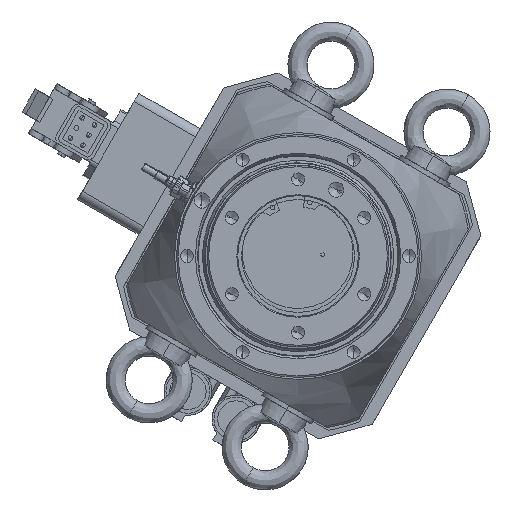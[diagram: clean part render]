
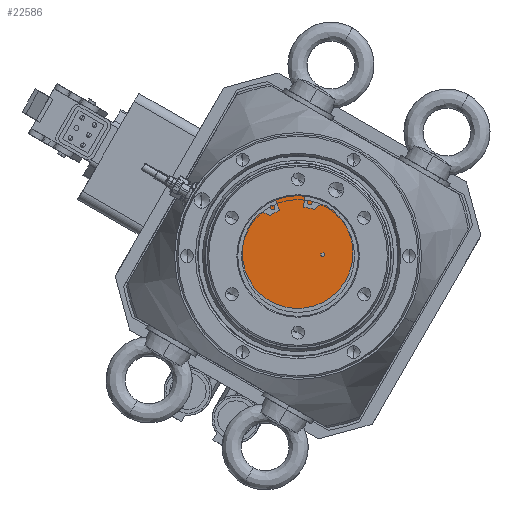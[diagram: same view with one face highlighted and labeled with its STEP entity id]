
A CAD part, front view. The second image highlights one B-rep face of the part: STEP entity #22586.
In plain terms, the highlighted planar face has unit normal (0, -1, 0).
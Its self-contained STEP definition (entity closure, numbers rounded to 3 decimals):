
#1701 = CARTESIAN_POINT ( 'NONE',  ( 31.622, -756.915, -8.343 ) ) ;
#3203 = EDGE_CURVE ( 'NONE', #45509, #61894, #23453, .T. ) ;
#6747 = EDGE_CURVE ( 'NONE', #24302, #36614, #46405, .T. ) ;
#8761 = CARTESIAN_POINT ( 'NONE',  ( 18.775, -756.915, -8.94 ) ) ;
#10756 = DIRECTION ( 'NONE',  ( -0.866, 0., 0.5 ) ) ;
#11317 = DIRECTION ( 'NONE',  ( 0., 1., 0. ) ) ;
#13830 = AXIS2_PLACEMENT_3D ( 'NONE', #40428, #11317, #26725 ) ;
#14545 = CARTESIAN_POINT ( 'NONE',  ( 46.055, -756.915, -24.69 ) ) ;
#17704 = DIRECTION ( 'NONE',  ( 0., 1., 0. ) ) ;
#18818 = CARTESIAN_POINT ( 'NONE',  ( 30.756, -756.915, -7.843 ) ) ;
#18868 = AXIS2_PLACEMENT_3D ( 'NONE', #8761, #17704, #62463 ) ;
#19085 = CARTESIAN_POINT ( 'NONE',  ( 18.775, -756.915, -8.94 ) ) ;
#20103 = FACE_OUTER_BOUND ( 'NONE', #23941, .T. ) ;
#20886 = AXIS2_PLACEMENT_3D ( 'NONE', #55131, #45217, #40375 ) ;
#22586 = ADVANCED_FACE ( 'NONE', ( #20103, #43322 ), #33416, .F. ) ;
#23453 = CIRCLE ( 'NONE', #45938, 1. ) ;
#23728 = ORIENTED_EDGE ( 'NONE', *, *, #6747, .F. ) ;
#23941 = EDGE_LOOP ( 'NONE', ( #61417, #23728 ) ) ;
#24302 = VERTEX_POINT ( 'NONE', #33077 ) ;
#26725 = DIRECTION ( 'NONE',  ( -0.866, 0., 0.5 ) ) ;
#30814 = DIRECTION ( 'NONE',  ( -0.866, 0., 0.5 ) ) ;
#33077 = CARTESIAN_POINT ( 'NONE',  ( -8.505, -756.915, 6.81 ) ) ;
#33416 = PLANE ( 'NONE',  #18868 ) ;
#34325 = ORIENTED_EDGE ( 'NONE', *, *, #3203, .T. ) ;
#36614 = VERTEX_POINT ( 'NONE', #14545 ) ;
#40375 = DIRECTION ( 'NONE',  ( -0.866, 0., 0.5 ) ) ;
#40428 = CARTESIAN_POINT ( 'NONE',  ( 31.622, -756.915, -8.343 ) ) ;
#41838 = AXIS2_PLACEMENT_3D ( 'NONE', #19085, #54631, #10756 ) ;
#43322 = FACE_BOUND ( 'NONE', #44090, .T. ) ;
#44090 = EDGE_LOOP ( 'NONE', ( #34325, #44809 ) ) ;
#44809 = ORIENTED_EDGE ( 'NONE', *, *, #59407, .T. ) ;
#45217 = DIRECTION ( 'NONE',  ( 0., 1., 0. ) ) ;
#45509 = VERTEX_POINT ( 'NONE', #51677 ) ;
#45938 = AXIS2_PLACEMENT_3D ( 'NONE', #1701, #51313, #30814 ) ;
#46405 = CIRCLE ( 'NONE', #20886, 31.5 ) ;
#48597 = EDGE_CURVE ( 'NONE', #36614, #24302, #61279, .T. ) ;
#51313 = DIRECTION ( 'NONE',  ( 0., 1., 0. ) ) ;
#51677 = CARTESIAN_POINT ( 'NONE',  ( 32.488, -756.915, -8.843 ) ) ;
#53745 = CIRCLE ( 'NONE', #13830, 1. ) ;
#54631 = DIRECTION ( 'NONE',  ( 0., 1., 0. ) ) ;
#55131 = CARTESIAN_POINT ( 'NONE',  ( 18.775, -756.915, -8.94 ) ) ;
#59407 = EDGE_CURVE ( 'NONE', #61894, #45509, #53745, .T. ) ;
#61279 = CIRCLE ( 'NONE', #41838, 31.5 ) ;
#61417 = ORIENTED_EDGE ( 'NONE', *, *, #48597, .F. ) ;
#61894 = VERTEX_POINT ( 'NONE', #18818 ) ;
#62463 = DIRECTION ( 'NONE',  ( -0.866, 0., 0.5 ) ) ;
